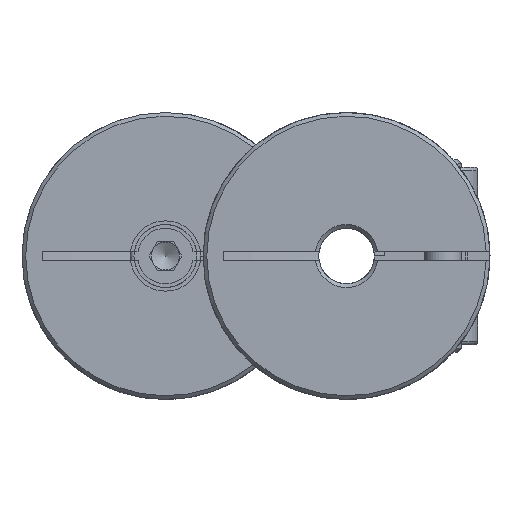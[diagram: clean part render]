
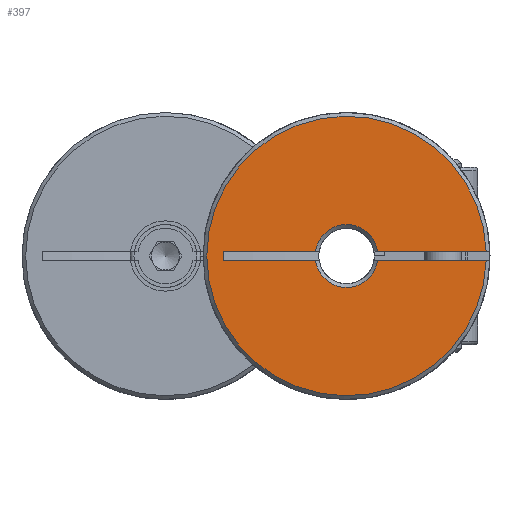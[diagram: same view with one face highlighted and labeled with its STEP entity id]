
A CAD part, left-side view. The second image highlights one B-rep face of the part: STEP entity #397.
In plain terms, the highlighted planar face has unit normal (-1, 0, 0).
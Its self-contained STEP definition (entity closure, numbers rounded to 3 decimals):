
#397 = ADVANCED_FACE( 'NONE', ( #783 ), #784, .F. );
#783 = FACE_OUTER_BOUND( '', #1091, .T. );
#784 = PLANE( '', #1092 );
#1091 = EDGE_LOOP( '', ( #1599, #1600, #1601, #1602, #1603, #1604, #1605, #1606 ) );
#1092 = AXIS2_PLACEMENT_3D( '', #1607, #1608, #1609 );
#1599 = ORIENTED_EDGE( '', *, *, #1909, .T. );
#1600 = ORIENTED_EDGE( '', *, *, #1886, .T. );
#1601 = ORIENTED_EDGE( '', *, *, #1916, .T. );
#1602 = ORIENTED_EDGE( '', *, *, #1917, .T. );
#1603 = ORIENTED_EDGE( '', *, *, #1904, .F. );
#1604 = ORIENTED_EDGE( '', *, *, #1902, .T. );
#1605 = ORIENTED_EDGE( '', *, *, #1911, .F. );
#1606 = ORIENTED_EDGE( '', *, *, #1918, .T. );
#1607 = CARTESIAN_POINT( '', ( 0., 1.5, 0. ) );
#1608 = DIRECTION( '', ( 1., 0., 0. ) );
#1609 = DIRECTION( '', ( 0., 1., 0. ) );
#1886 = EDGE_CURVE( 'NONE', #2137, #2134, #2138, .T. );
#1902 = EDGE_CURVE( 'NONE', #2167, #2165, #2168, .T. );
#1904 = EDGE_CURVE( 'NONE', #2167, #2170, #2171, .F. );
#1909 = EDGE_CURVE( 'NONE', #2179, #2137, #2180, .T. );
#1911 = EDGE_CURVE( 'NONE', #2182, #2165, #2183, .F. );
#1916 = EDGE_CURVE( 'NONE', #2134, #2190, #2191, .T. );
#1917 = EDGE_CURVE( 'NONE', #2190, #2170, #2192, .F. );
#1918 = EDGE_CURVE( 'NONE', #2182, #2179, #2193, .T. );
#2134 = VERTEX_POINT( 'NONE', #2357 );
#2137 = VERTEX_POINT( 'NONE', #2363 );
#2138 = CIRCLE( '', #2364, 1.7 );
#2165 = VERTEX_POINT( 'NONE', #2408 );
#2167 = VERTEX_POINT( 'NONE', #2413 );
#2168 = CIRCLE( '', #2414, 1.7 );
#2170 = VERTEX_POINT( 'NONE', #2419 );
#2171 = LINE( '', #2420, #2421 );
#2179 = VERTEX_POINT( 'NONE', #2434 );
#2180 = LINE( '', #2435, #2436 );
#2182 = VERTEX_POINT( 'NONE', #2438 );
#2183 = LINE( '', #2439, #2440 );
#2190 = VERTEX_POINT( 'NONE', #2449 );
#2191 = LINE( '', #2450, #2451 );
#2192 = CIRCLE( '', #2452, 7.55 );
#2193 = LINE( '', #2453, #2454 );
#2357 = CARTESIAN_POINT( '', ( 0., -1.682, 0.25 ) );
#2363 = CARTESIAN_POINT( '', ( 0., 1.682, 0.25 ) );
#2364 = AXIS2_PLACEMENT_3D( '', #2777, #2778, #2779 );
#2408 = CARTESIAN_POINT( '', ( 0., 1.682, -0.25 ) );
#2413 = CARTESIAN_POINT( '', ( 0., -1.682, -0.25 ) );
#2414 = AXIS2_PLACEMENT_3D( '', #2801, #2802, #2803 );
#2419 = CARTESIAN_POINT( '', ( 0., -7.546, -0.25 ) );
#2420 = CARTESIAN_POINT( '', ( 0., -4.5, -0.25 ) );
#2421 = VECTOR( '', #2804, 1000. );
#2434 = CARTESIAN_POINT( '', ( 0., 6.624, 0.25 ) );
#2435 = CARTESIAN_POINT( '', ( 0., 1.5, 0.25 ) );
#2436 = VECTOR( '', #2810, 1000. );
#2438 = CARTESIAN_POINT( '', ( 0., 6.624, -0.25 ) );
#2439 = CARTESIAN_POINT( '', ( 0., -4.5, -0.25 ) );
#2440 = VECTOR( '', #2814, 1000. );
#2449 = CARTESIAN_POINT( '', ( 0., -7.546, 0.25 ) );
#2450 = CARTESIAN_POINT( '', ( 0., 1.5, 0.25 ) );
#2451 = VECTOR( '', #2823, 1000. );
#2452 = AXIS2_PLACEMENT_3D( '', #2824, #2825, #2826 );
#2453 = CARTESIAN_POINT( '', ( 0., 6.624, -0.25 ) );
#2454 = VECTOR( '', #2827, 1000. );
#2777 = CARTESIAN_POINT( '', ( 0., 0., 0. ) );
#2778 = DIRECTION( '', ( 1., 0., 0. ) );
#2779 = DIRECTION( '', ( 0., 0., -1. ) );
#2801 = CARTESIAN_POINT( '', ( 0., 0., 0. ) );
#2802 = DIRECTION( '', ( 1., 0., 0. ) );
#2803 = DIRECTION( '', ( 0., 0., -1. ) );
#2804 = DIRECTION( '', ( 0., 1., 0. ) );
#2810 = DIRECTION( '', ( 0., -1., 0. ) );
#2814 = DIRECTION( '', ( 0., 1., 0. ) );
#2823 = DIRECTION( '', ( 0., -1., 0. ) );
#2824 = CARTESIAN_POINT( '', ( 0., 0., 0. ) );
#2825 = DIRECTION( '', ( 1., 0., 0. ) );
#2826 = DIRECTION( '', ( 0., 0., -1. ) );
#2827 = DIRECTION( '', ( 0., 0., 1. ) );
